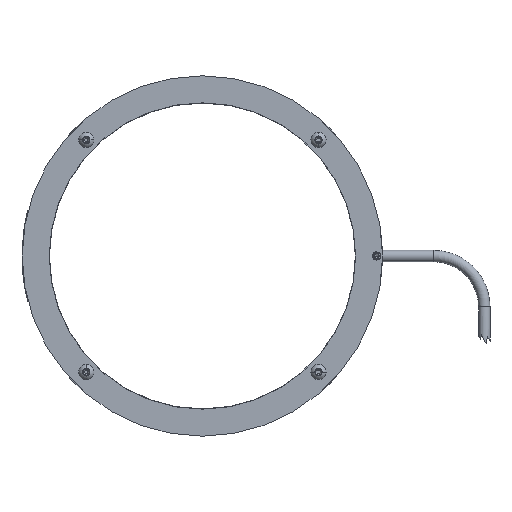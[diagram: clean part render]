
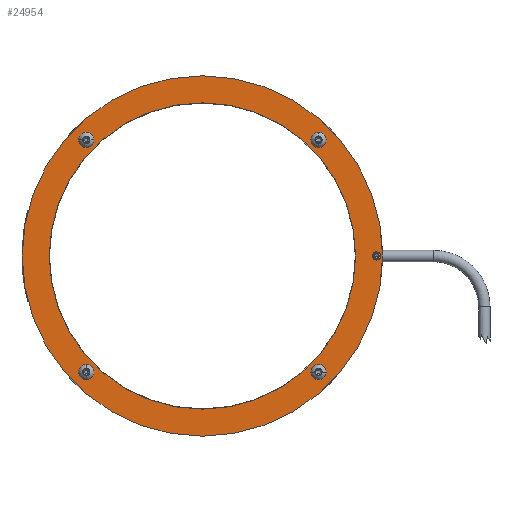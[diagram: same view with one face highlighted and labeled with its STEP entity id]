
A CAD part, front view. The second image highlights one B-rep face of the part: STEP entity #24954.
In plain terms, the highlighted planar face has unit normal (0, -1, 0).
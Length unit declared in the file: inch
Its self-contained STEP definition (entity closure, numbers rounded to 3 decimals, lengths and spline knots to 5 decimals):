
#109 = CARTESIAN_POINT ( 'NONE',  ( 3.425, 0., 0. ) ) ;
#296 = EDGE_CURVE ( 'NONE', #22172, #12839, #18542, .T. ) ;
#700 = DIRECTION ( 'NONE',  ( 0., 1., 0. ) ) ;
#927 = AXIS2_PLACEMENT_3D ( 'NONE', #21015, #700, #4918 ) ;
#1104 = AXIS2_PLACEMENT_3D ( 'NONE', #13411, #9639, #23182 ) ;
#1215 = CARTESIAN_POINT ( 'NONE',  ( 0., 0., 0. ) ) ;
#1536 = DIRECTION ( 'NONE',  ( 0., 0., -1. ) ) ;
#1668 = VERTEX_POINT ( 'NONE', #2763 ) ;
#1695 = ORIENTED_EDGE ( 'NONE', *, *, #3937, .F. ) ;
#1993 = CIRCLE ( 'NONE', #12669, 0.0795 ) ;
#2472 = CARTESIAN_POINT ( 'NONE',  ( 3.425, 0., 0. ) ) ;
#2515 = DIRECTION ( 'NONE',  ( 0., -1., 0. ) ) ;
#2763 = CARTESIAN_POINT ( 'NONE',  ( 3.425, 0., 0.0795 ) ) ;
#2898 = FACE_BOUND ( 'NONE', #8734, .T. ) ;
#3007 = ORIENTED_EDGE ( 'NONE', *, *, #12432, .F. ) ;
#3291 = CARTESIAN_POINT ( 'NONE',  ( -2.28279, 0., -2.28279 ) ) ;
#3777 = ORIENTED_EDGE ( 'NONE', *, *, #8581, .F. ) ;
#3854 = EDGE_CURVE ( 'NONE', #24763, #14642, #4177, .T. ) ;
#3921 = CARTESIAN_POINT ( 'NONE',  ( -2.28279, 0., 2.28279 ) ) ;
#3937 = EDGE_CURVE ( 'NONE', #10643, #11036, #19423, .T. ) ;
#4157 = DIRECTION ( 'NONE',  ( 0., 0., 1. ) ) ;
#4177 = CIRCLE ( 'NONE', #23462, 3.543 ) ;
#4498 = EDGE_CURVE ( 'NONE', #17878, #1668, #13865, .T. ) ;
#4918 = DIRECTION ( 'NONE',  ( 0., 0., 1. ) ) ;
#5353 = EDGE_CURVE ( 'NONE', #17181, #15646, #14142, .T. ) ;
#5388 = AXIS2_PLACEMENT_3D ( 'NONE', #3921, #18104, #13898 ) ;
#5655 = EDGE_LOOP ( 'NONE', ( #19037, #21669 ) ) ;
#5683 = DIRECTION ( 'NONE',  ( 0., -1., 0. ) ) ;
#5832 = CARTESIAN_POINT ( 'NONE',  ( 3.425, 0., -0.0795 ) ) ;
#5840 = CARTESIAN_POINT ( 'NONE',  ( 0., 0., -3.543 ) ) ;
#6053 = DIRECTION ( 'NONE',  ( 0., -1., 0. ) ) ;
#6130 = DIRECTION ( 'NONE',  ( 0., -1., 0. ) ) ;
#6181 = VERTEX_POINT ( 'NONE', #7131 ) ;
#6244 = CIRCLE ( 'NONE', #8706, 0.06496 ) ;
#6367 = FACE_BOUND ( 'NONE', #25142, .T. ) ;
#6928 = EDGE_LOOP ( 'NONE', ( #8122, #10829 ) ) ;
#7015 = FACE_BOUND ( 'NONE', #6928, .T. ) ;
#7131 = CARTESIAN_POINT ( 'NONE',  ( 0., 0., 3.01175 ) ) ;
#7175 = VERTEX_POINT ( 'NONE', #23550 ) ;
#7420 = DIRECTION ( 'NONE',  ( 0., 1., 0. ) ) ;
#7564 = EDGE_CURVE ( 'NONE', #21262, #6181, #18028, .T. ) ;
#7866 = ORIENTED_EDGE ( 'NONE', *, *, #23318, .F. ) ;
#8122 = ORIENTED_EDGE ( 'NONE', *, *, #20683, .F. ) ;
#8145 = EDGE_CURVE ( 'NONE', #15646, #17181, #10300, .T. ) ;
#8467 = AXIS2_PLACEMENT_3D ( 'NONE', #24214, #2515, #16322 ) ;
#8581 = EDGE_CURVE ( 'NONE', #11036, #10643, #16533, .T. ) ;
#8612 = ORIENTED_EDGE ( 'NONE', *, *, #17460, .F. ) ;
#8706 = AXIS2_PLACEMENT_3D ( 'NONE', #3291, #8961, #9204 ) ;
#8734 = EDGE_LOOP ( 'NONE', ( #1695, #3777 ) ) ;
#8961 = DIRECTION ( 'NONE',  ( 0., -1., 0. ) ) ;
#8985 = DIRECTION ( 'NONE',  ( 0., 0., 1. ) ) ;
#9204 = DIRECTION ( 'NONE',  ( 0., 0., -1. ) ) ;
#9219 = CARTESIAN_POINT ( 'NONE',  ( 2.28279, 0., 2.21783 ) ) ;
#9257 = ORIENTED_EDGE ( 'NONE', *, *, #4498, .F. ) ;
#9370 = CARTESIAN_POINT ( 'NONE',  ( -2.28279, 0., -2.21783 ) ) ;
#9404 = DIRECTION ( 'NONE',  ( 0., 0., 1. ) ) ;
#9639 = DIRECTION ( 'NONE',  ( 0., -1., 0. ) ) ;
#9814 = PLANE ( 'NONE',  #22134 ) ;
#10084 = CARTESIAN_POINT ( 'NONE',  ( 0., 0., 0. ) ) ;
#10300 = CIRCLE ( 'NONE', #8467, 0.06496 ) ;
#10311 = AXIS2_PLACEMENT_3D ( 'NONE', #17853, #6053, #19865 ) ;
#10643 = VERTEX_POINT ( 'NONE', #11717 ) ;
#10829 = ORIENTED_EDGE ( 'NONE', *, *, #296, .F. ) ;
#10904 = AXIS2_PLACEMENT_3D ( 'NONE', #109, #6130, #25731 ) ;
#11036 = VERTEX_POINT ( 'NONE', #19448 ) ;
#11050 = ORIENTED_EDGE ( 'NONE', *, *, #3854, .F. ) ;
#11492 = AXIS2_PLACEMENT_3D ( 'NONE', #21705, #23682, #11827 ) ;
#11666 = CIRCLE ( 'NONE', #11492, 0.06496 ) ;
#11717 = CARTESIAN_POINT ( 'NONE',  ( 2.28279, 0., -2.34775 ) ) ;
#11827 = DIRECTION ( 'NONE',  ( 0., 0., -1. ) ) ;
#12008 = DIRECTION ( 'NONE',  ( 0., 1., 0. ) ) ;
#12099 = DIRECTION ( 'NONE',  ( 0., 0., 1. ) ) ;
#12423 = CIRCLE ( 'NONE', #927, 3.543 ) ;
#12432 = EDGE_CURVE ( 'NONE', #14642, #24763, #12423, .T. ) ;
#12669 = AXIS2_PLACEMENT_3D ( 'NONE', #2472, #24257, #22448 ) ;
#12839 = VERTEX_POINT ( 'NONE', #17919 ) ;
#13072 = DIRECTION ( 'NONE',  ( 0., -1., 0. ) ) ;
#13301 = AXIS2_PLACEMENT_3D ( 'NONE', #25248, #13072, #21172 ) ;
#13411 = CARTESIAN_POINT ( 'NONE',  ( 2.28279, 0., -2.28279 ) ) ;
#13865 = CIRCLE ( 'NONE', #10904, 0.0795 ) ;
#13898 = DIRECTION ( 'NONE',  ( 0., 0., -1. ) ) ;
#13957 = DIRECTION ( 'NONE',  ( 0., 1., 0. ) ) ;
#14129 = CARTESIAN_POINT ( 'NONE',  ( 0., 0., 0. ) ) ;
#14142 = CIRCLE ( 'NONE', #24373, 0.06496 ) ;
#14285 = AXIS2_PLACEMENT_3D ( 'NONE', #19443, #7420, #9404 ) ;
#14433 = EDGE_LOOP ( 'NONE', ( #18140, #17712 ) ) ;
#14642 = VERTEX_POINT ( 'NONE', #16307 ) ;
#14907 = DIRECTION ( 'NONE',  ( 0., 1., 0. ) ) ;
#14916 = VERTEX_POINT ( 'NONE', #17728 ) ;
#15646 = VERTEX_POINT ( 'NONE', #24234 ) ;
#16148 = EDGE_LOOP ( 'NONE', ( #11050, #3007 ) ) ;
#16307 = CARTESIAN_POINT ( 'NONE',  ( 0., 0., 3.543 ) ) ;
#16322 = DIRECTION ( 'NONE',  ( 0., 0., -1. ) ) ;
#16533 = CIRCLE ( 'NONE', #13301, 0.06496 ) ;
#17181 = VERTEX_POINT ( 'NONE', #9219 ) ;
#17246 = FACE_BOUND ( 'NONE', #5655, .T. ) ;
#17424 = CARTESIAN_POINT ( 'NONE',  ( 2.28279, 0., 2.28279 ) ) ;
#17460 = EDGE_CURVE ( 'NONE', #14916, #7175, #22084, .T. ) ;
#17712 = ORIENTED_EDGE ( 'NONE', *, *, #24794, .T. ) ;
#17728 = CARTESIAN_POINT ( 'NONE',  ( -2.28279, 0., 2.21783 ) ) ;
#17853 = CARTESIAN_POINT ( 'NONE',  ( -2.28279, 0., -2.28279 ) ) ;
#17859 = FACE_BOUND ( 'NONE', #20943, .T. ) ;
#17878 = VERTEX_POINT ( 'NONE', #5832 ) ;
#17919 = CARTESIAN_POINT ( 'NONE',  ( -2.28279, 0., -2.34775 ) ) ;
#18028 = CIRCLE ( 'NONE', #14285, 3.01175 ) ;
#18104 = DIRECTION ( 'NONE',  ( 0., -1., 0. ) ) ;
#18140 = ORIENTED_EDGE ( 'NONE', *, *, #7564, .T. ) ;
#18516 = CIRCLE ( 'NONE', #25120, 3.01175 ) ;
#18542 = CIRCLE ( 'NONE', #10311, 0.06496 ) ;
#19037 = ORIENTED_EDGE ( 'NONE', *, *, #5353, .F. ) ;
#19423 = CIRCLE ( 'NONE', #1104, 0.06496 ) ;
#19443 = CARTESIAN_POINT ( 'NONE',  ( 0., 0., 0. ) ) ;
#19448 = CARTESIAN_POINT ( 'NONE',  ( 2.28279, 0., -2.21783 ) ) ;
#19865 = DIRECTION ( 'NONE',  ( 0., 0., -1. ) ) ;
#20683 = EDGE_CURVE ( 'NONE', #12839, #22172, #6244, .T. ) ;
#20943 = EDGE_LOOP ( 'NONE', ( #9257, #7866 ) ) ;
#21015 = CARTESIAN_POINT ( 'NONE',  ( 0., 0., 0. ) ) ;
#21172 = DIRECTION ( 'NONE',  ( 0., 0., -1. ) ) ;
#21262 = VERTEX_POINT ( 'NONE', #21482 ) ;
#21279 = FACE_BOUND ( 'NONE', #14433, .T. ) ;
#21482 = CARTESIAN_POINT ( 'NONE',  ( 0., 0., -3.01175 ) ) ;
#21669 = ORIENTED_EDGE ( 'NONE', *, *, #8145, .F. ) ;
#21705 = CARTESIAN_POINT ( 'NONE',  ( -2.28279, 0., 2.28279 ) ) ;
#22084 = CIRCLE ( 'NONE', #5388, 0.06496 ) ;
#22134 = AXIS2_PLACEMENT_3D ( 'NONE', #10084, #12008, #12099 ) ;
#22172 = VERTEX_POINT ( 'NONE', #9370 ) ;
#22233 = FACE_OUTER_BOUND ( 'NONE', #16148, .T. ) ;
#22448 = DIRECTION ( 'NONE',  ( 0., 0., -1. ) ) ;
#23092 = ORIENTED_EDGE ( 'NONE', *, *, #24974, .F. ) ;
#23182 = DIRECTION ( 'NONE',  ( 0., 0., -1. ) ) ;
#23318 = EDGE_CURVE ( 'NONE', #1668, #17878, #1993, .T. ) ;
#23462 = AXIS2_PLACEMENT_3D ( 'NONE', #1215, #14907, #8985 ) ;
#23550 = CARTESIAN_POINT ( 'NONE',  ( -2.28279, 0., 2.34775 ) ) ;
#23682 = DIRECTION ( 'NONE',  ( 0., -1., 0. ) ) ;
#24214 = CARTESIAN_POINT ( 'NONE',  ( 2.28279, 0., 2.28279 ) ) ;
#24234 = CARTESIAN_POINT ( 'NONE',  ( 2.28279, 0., 2.34775 ) ) ;
#24257 = DIRECTION ( 'NONE',  ( 0., -1., 0. ) ) ;
#24373 = AXIS2_PLACEMENT_3D ( 'NONE', #17424, #5683, #1536 ) ;
#24763 = VERTEX_POINT ( 'NONE', #5840 ) ;
#24794 = EDGE_CURVE ( 'NONE', #6181, #21262, #18516, .T. ) ;
#24954 = ADVANCED_FACE ( 'NONE', ( #17859, #2898, #7015, #6367, #17246, #22233, #21279 ), #9814, .F. ) ;
#24974 = EDGE_CURVE ( 'NONE', #7175, #14916, #11666, .T. ) ;
#25120 = AXIS2_PLACEMENT_3D ( 'NONE', #14129, #13957, #4157 ) ;
#25142 = EDGE_LOOP ( 'NONE', ( #8612, #23092 ) ) ;
#25248 = CARTESIAN_POINT ( 'NONE',  ( 2.28279, 0., -2.28279 ) ) ;
#25731 = DIRECTION ( 'NONE',  ( 0., 0., -1. ) ) ;
